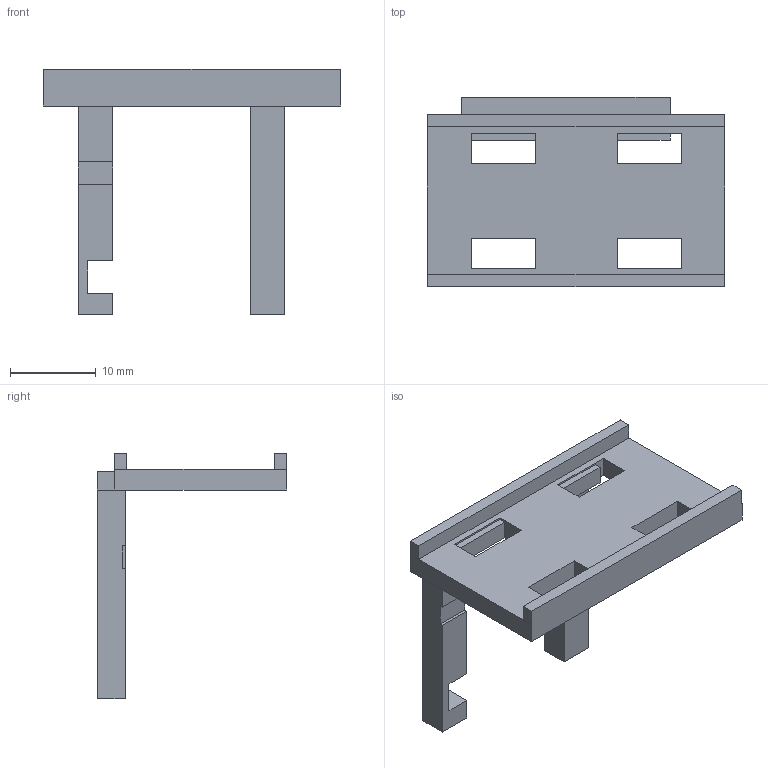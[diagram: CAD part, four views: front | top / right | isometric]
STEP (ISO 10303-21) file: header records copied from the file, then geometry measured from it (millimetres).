
FILE_DESCRIPTION(('Open CASCADE Model'),'2;1');
FILE_NAME('Open CASCADE Shape Model','2026-11-20T15:36:04',('Author'),( 'Open CASCADE'),'Open CASCADE STEP processor 8.0','Open CASCADE 8.0' ,'Unknown');
FILE_SCHEMA(('AUTOMOTIVE_DESIGN { 1 0 10303 214 1 1 1 1 }'));
Length unit declared in the file: millimetre
Products named in the file (1): Open CASCADE STEP translator 8.0 6
Bounding box: 34.6 x 22 x 28.6 mm (x, y, z)
Volume: 2318.3 mm3; surface area: 2747.1 mm2
Topology: 1 solids, 1 shells, 55 faces, 159 edges, 106 vertices
Faces by surface type: plane 55
Entity records: 3749 total; most frequent: CARTESIAN_POINT 756, DIRECTION 472, LINE 360, VECTOR 360, ORIENTED_EDGE 318, PCURVE 318, DEFINITIONAL_REPRESENTATION 318, EDGE_CURVE 159
